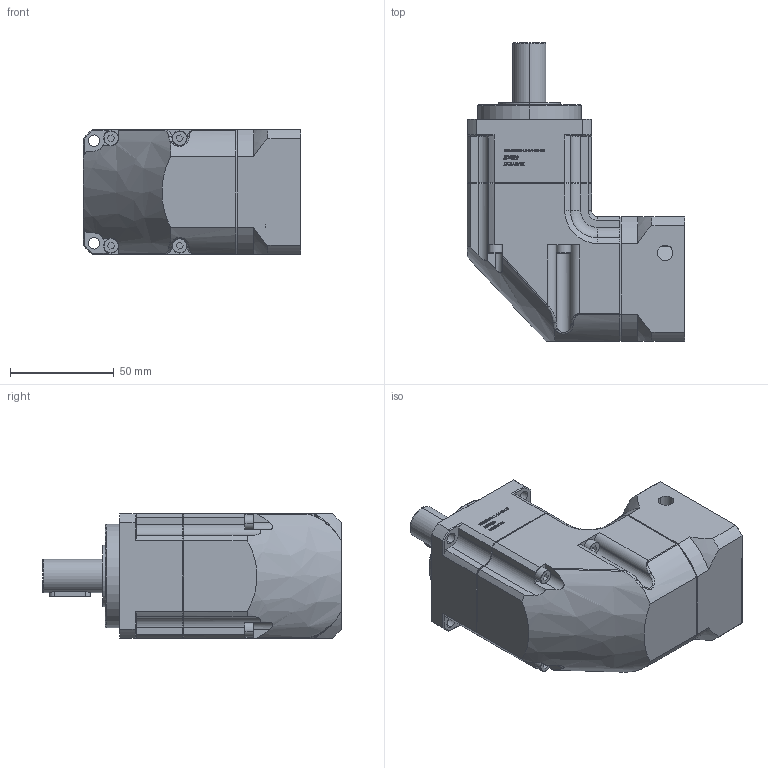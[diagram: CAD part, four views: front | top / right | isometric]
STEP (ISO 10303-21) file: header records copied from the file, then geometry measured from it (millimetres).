
FILE_DESCRIPTION (( 'STEP AP203' ), '1' );
FILE_NAME ('PAMG60-L1-14-50-70.STEP', '2022-07-16T09:21:13', ( 'Windows User' ), ( 'P R C' ), 'SwSTEP 2.0', 'SolidWorks 2016', '' );
FILE_SCHEMA (( 'CONFIG_CONTROL_DESIGN' ));
Length unit declared in the file: millimetre
Products named in the file (8): 邧埴瑩 5x5x20; PAMG60俋倛芞喘眊; GB／T70．1-2000内六角圆柱头螺钉M4×60_一级用; PAMG60-L1-14-50-70; PAMG60俋倛芞奻裔啣_72T; PAMG60俋倛芞蟀諉啣-; PAMG60俋倛芞坶踡遠-; 囀鞠褒蹟佪-M4℅12
Assembly tree (10 placements, depth 2):
  PAMG60-L1-14-50-70
    PAMG60俋倛芞奻裔啣_72T
    PAMG60俋倛芞蟀諉啣-
    PAMG60俋倛芞坶踡遠-
    囀鞠褒蹟佪-M4℅12
    邧埴瑩 5x5x20
    PAMG60俋倛芞喘眊
    GB／T70．1-2000内六角圆柱头螺钉M4×60_一级用  x4
Bounding box: 105 x 143.9 x 60 mm (x, y, z)
Volume: 435800.6 mm3; surface area: 76805 mm2
Topology: 10 solids, 10 shells, 1066 faces, 2748 edges, 1779 vertices
Faces by surface type: plane 596, cylinder 190, bspline 161, cone 85, torus 30, sphere 4
Entity records: 40757 total; most frequent: CARTESIAN_POINT 16515, ORIENTED_EDGE 5152, DIRECTION 4141, EDGE_CURVE 2576, VECTOR 1695, LINE 1695, VERTEX_POINT 1683, AXIS2_PLACEMENT_3D 1223
